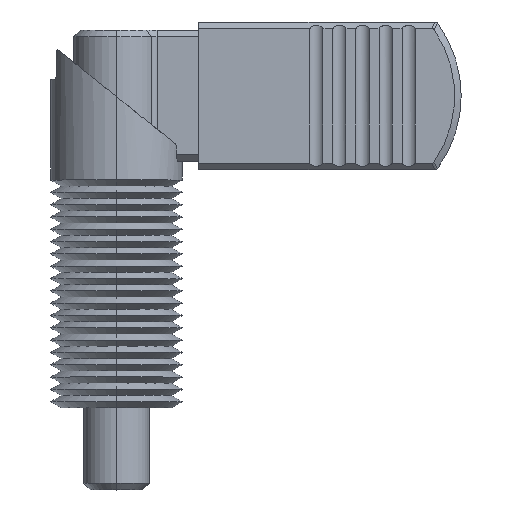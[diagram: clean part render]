
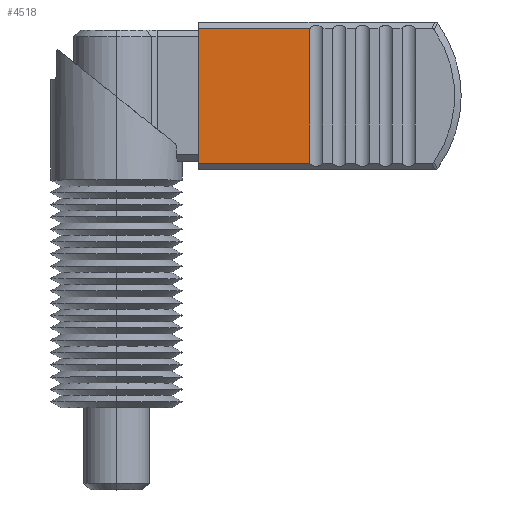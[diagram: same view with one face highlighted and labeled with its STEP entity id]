
A CAD part, top view. The second image highlights one B-rep face of the part: STEP entity #4518.
In plain terms, the highlighted planar face has unit normal (0, 0, 1) as drawn and (-1, 0, 0) by its records, which use the part's own axes.
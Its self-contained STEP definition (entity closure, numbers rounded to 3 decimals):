
#1103 = CARTESIAN_POINT ( 'NONE',  ( -3.6, -8.199, 0. ) ) ;
#1186 = CARTESIAN_POINT ( 'NONE',  ( -3.6, 8.199, 0. ) ) ;
#1201 = LINE ( 'NONE', #1262, #1261 ) ;
#1260 = DIRECTION ( 'NONE',  ( 0., 1., 0. ) ) ;
#1261 = VECTOR ( 'NONE', #1260, 1000. ) ;
#1262 = CARTESIAN_POINT ( 'NONE',  ( -3.6, -9., 0. ) ) ;
#1677 = DIRECTION ( 'NONE',  ( 0., 0., 1. ) ) ;
#1678 = DIRECTION ( 'NONE',  ( -1., 0., 0. ) ) ;
#1679 = CARTESIAN_POINT ( 'NONE',  ( -3.6, 0., 16.995 ) ) ;
#1680 = AXIS2_PLACEMENT_3D ( 'NONE', #1679, #1678, #1677 ) ;
#1681 = PLANE ( 'NONE',  #1680 ) ;
#1682 = FACE_OUTER_BOUND ( 'NONE', #4515, .T. ) ;
#1684 = DIRECTION ( 'NONE',  ( 0., 1., 0. ) ) ;
#1685 = VECTOR ( 'NONE', #1684, 1000. ) ;
#1686 = CARTESIAN_POINT ( 'NONE',  ( -3.6, -9., 13.537 ) ) ;
#1687 = LINE ( 'NONE', #1686, #1685 ) ;
#1688 = CARTESIAN_POINT ( 'NONE',  ( -3.6, 8.199, 13.537 ) ) ;
#1694 = CARTESIAN_POINT ( 'NONE',  ( -3.6, -8.199, 13.537 ) ) ;
#1758 = DIRECTION ( 'NONE',  ( 0., 0., -1. ) ) ;
#1759 = VECTOR ( 'NONE', #1758, 1000. ) ;
#1760 = CARTESIAN_POINT ( 'NONE',  ( -3.6, 8.199, 0. ) ) ;
#1761 = LINE ( 'NONE', #1760, #1759 ) ;
#1762 = DIRECTION ( 'NONE',  ( 0., 0., 1. ) ) ;
#1763 = VECTOR ( 'NONE', #1762, 1000. ) ;
#1764 = CARTESIAN_POINT ( 'NONE',  ( -3.6, -8.199, 29.001 ) ) ;
#1767 = LINE ( 'NONE', #1764, #1763 ) ;
#3760 = VERTEX_POINT ( 'NONE', #1103 ) ;
#4218 = VERTEX_POINT ( 'NONE', #1186 ) ;
#4247 = EDGE_CURVE ( 'NONE', #3760, #4218, #1201, .T. ) ;
#4513 = VERTEX_POINT ( 'NONE', #1694 ) ;
#4514 = VERTEX_POINT ( 'NONE', #1688 ) ;
#4515 = EDGE_LOOP ( 'NONE', ( #4516, #4553, #4544, #4551 ) ) ;
#4516 = ORIENTED_EDGE ( 'NONE', *, *, #4517, .T. ) ;
#4517 = EDGE_CURVE ( 'NONE', #4513, #4514, #1687, .T. ) ;
#4518 = ADVANCED_FACE ( 'NONE', ( #1682 ), #1681, .T. ) ;
#4544 = ORIENTED_EDGE ( 'NONE', *, *, #4247, .F. ) ;
#4550 = EDGE_CURVE ( 'NONE', #3760, #4513, #1767, .T. ) ;
#4551 = ORIENTED_EDGE ( 'NONE', *, *, #4550, .T. ) ;
#4552 = EDGE_CURVE ( 'NONE', #4514, #4218, #1761, .T. ) ;
#4553 = ORIENTED_EDGE ( 'NONE', *, *, #4552, .T. ) ;
